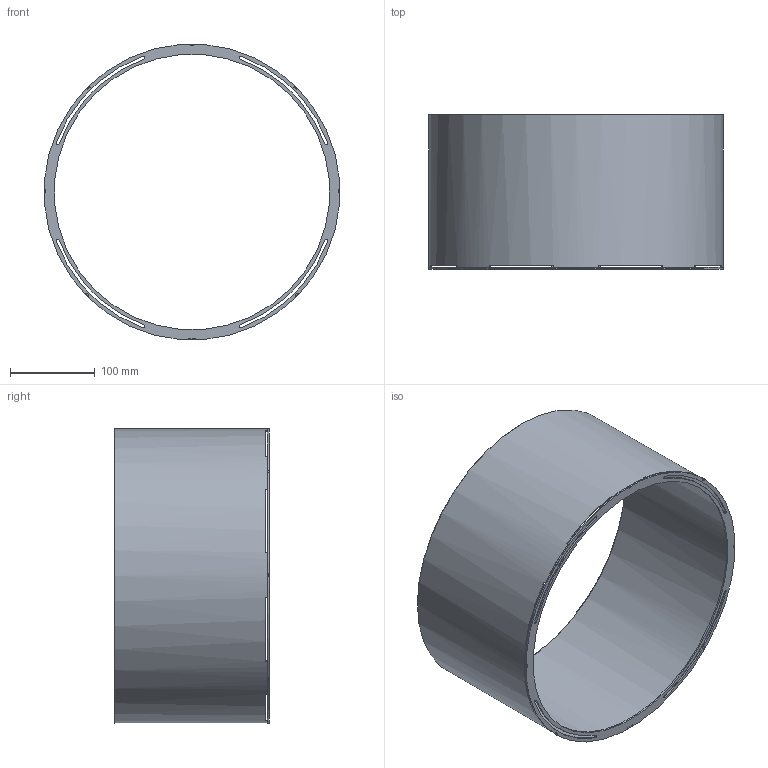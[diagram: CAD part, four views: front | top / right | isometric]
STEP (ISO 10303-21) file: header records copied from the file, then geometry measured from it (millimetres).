
FILE_DESCRIPTION(/* description */ ('Unknown'),/* implementation_level */ '2;1');
FILE_NAME(/* name */ 'TopHat - XL',/* time_stamp */ '2022-08-22T08:26:43+02:00',/* author */ ('Unknown'),/* organization */ ('Unknown'),/* preprocessor_version */ 'ST-DEVELOPER v18.102',/* originating_system */ 'Solid Edge',/* authorisation */ 'Unknown');
FILE_SCHEMA (('AUTOMOTIVE_DESIGN {1 0 10303 214 3 1 1}'));
Length unit declared in the file: millimetre
Products named in the file (1): 11431128 TopHat - XL
Bounding box: 347.87 x 182 x 347.87 mm (x, y, z)
Volume: 215121 mm3; surface area: 417522.6 mm2
Topology: 1 solids, 1 shells, 119 faces, 413 edges, 265 vertices
Faces by surface type: plane 83, cylinder 36
Full cylindrical faces by diameter (mm): 325.2 x1, 345 x1, 347 x1, 349.2 x1
Entity records: 4584 total; most frequent: ORIENTED_EDGE 812, DIRECTION 812, CARTESIAN_POINT 788, EDGE_CURVE 406, AXIS2_PLACEMENT_3D 286, VERTEX_POINT 262, LINE 240, VECTOR 240
